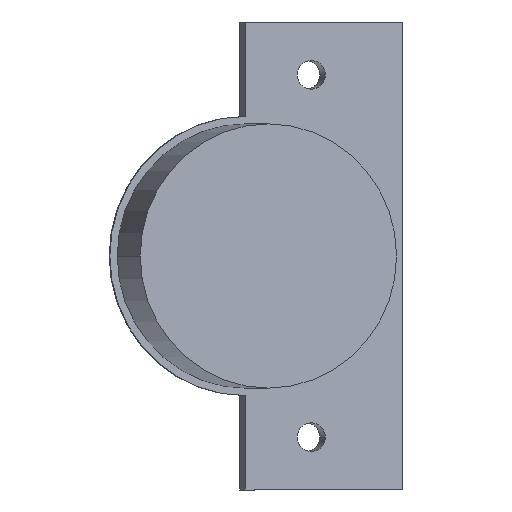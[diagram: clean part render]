
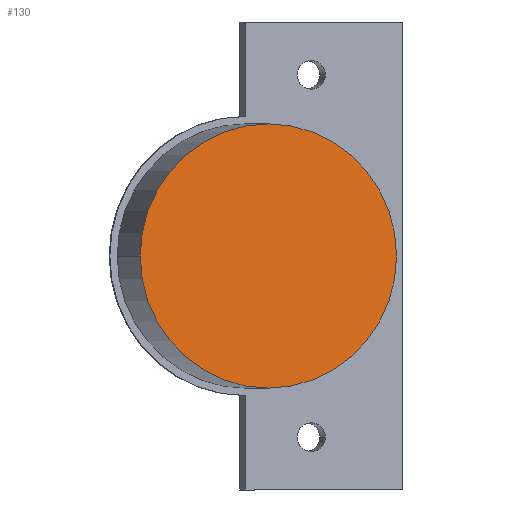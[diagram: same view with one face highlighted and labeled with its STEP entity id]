
A CAD part, front view. The second image highlights one B-rep face of the part: STEP entity #130.
In plain terms, the highlighted planar face has unit normal (0.242, -0.97, 0).
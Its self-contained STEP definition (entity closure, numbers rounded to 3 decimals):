
#33 = EDGE_CURVE ( 'NONE', #945, #969, #766, .T. ) ;
#87 = EDGE_CURVE ( 'NONE', #969, #945, #862, .T. ) ;
#130 = ADVANCED_FACE ( 'NONE', ( #1377 ), #1297, .T. ) ;
#172 = EDGE_LOOP ( 'NONE', ( #502, #501 ) ) ;
#251 = AXIS2_PLACEMENT_3D ( 'NONE', #1298, #1251, #1324 ) ;
#286 = AXIS2_PLACEMENT_3D ( 'NONE', #1108, #1095, #1094 ) ;
#299 = AXIS2_PLACEMENT_3D ( 'NONE', #1068, #1008, #1063 ) ;
#501 = ORIENTED_EDGE ( 'NONE', *, *, #33, .T. ) ;
#502 = ORIENTED_EDGE ( 'NONE', *, *, #87, .T. ) ;
#663 = CARTESIAN_POINT ( 'NONE',  ( -6.932, -16.459, 0. ) ) ;
#678 = CARTESIAN_POINT ( 'NONE',  ( 27.028, -7.992, 0. ) ) ;
#766 = CIRCLE ( 'NONE', #299, 17.5 ) ;
#862 = CIRCLE ( 'NONE', #286, 17.5 ) ;
#945 = VERTEX_POINT ( 'NONE', #678 ) ;
#969 = VERTEX_POINT ( 'NONE', #663 ) ;
#1008 = DIRECTION ( 'NONE',  ( 0.242, -0.97, 0. ) ) ;
#1063 = DIRECTION ( 'NONE',  ( 0.97, 0.242, 0. ) ) ;
#1068 = CARTESIAN_POINT ( 'NONE',  ( 10.048, -12.226, 0. ) ) ;
#1094 = DIRECTION ( 'NONE',  ( 0.97, 0.242, 0. ) ) ;
#1095 = DIRECTION ( 'NONE',  ( 0.242, -0.97, 0. ) ) ;
#1108 = CARTESIAN_POINT ( 'NONE',  ( 10.048, -12.226, 0. ) ) ;
#1251 = DIRECTION ( 'NONE',  ( 0.242, -0.97, 0. ) ) ;
#1297 = PLANE ( 'NONE',  #251 ) ;
#1298 = CARTESIAN_POINT ( 'NONE',  ( 10.048, -12.226, 0. ) ) ;
#1324 = DIRECTION ( 'NONE',  ( 0.97, 0.242, 0. ) ) ;
#1377 = FACE_OUTER_BOUND ( 'NONE', #172, .T. ) ;
